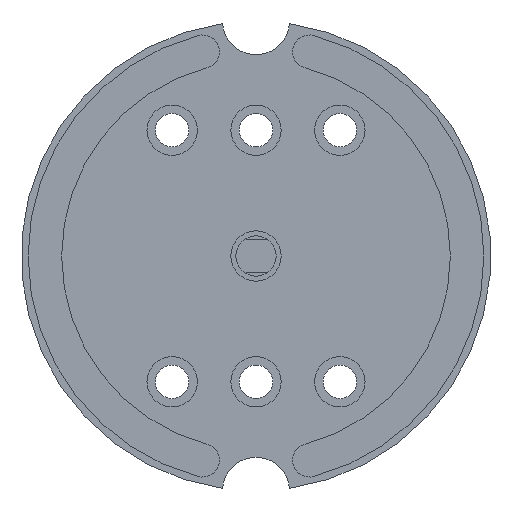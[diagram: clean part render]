
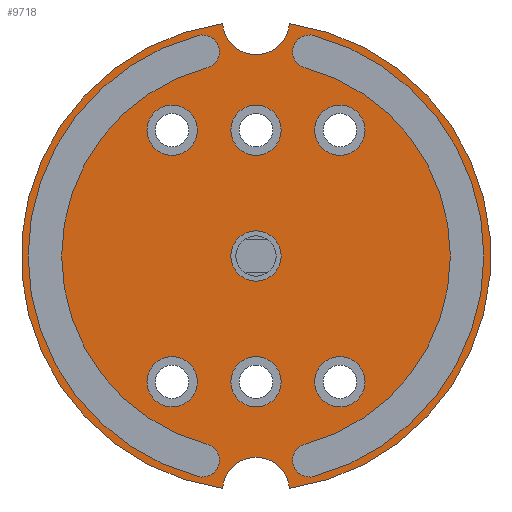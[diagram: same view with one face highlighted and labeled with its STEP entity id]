
A CAD part, front view. The second image highlights one B-rep face of the part: STEP entity #9718.
In plain terms, the highlighted planar face has unit normal (0, -1, 0).
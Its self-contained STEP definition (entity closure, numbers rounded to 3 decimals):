
#668=FACE_BOUND('',#1603,.T.);
#669=FACE_BOUND('',#1604,.T.);
#670=FACE_BOUND('',#1605,.T.);
#671=FACE_BOUND('',#1606,.T.);
#672=FACE_BOUND('',#1607,.T.);
#673=FACE_BOUND('',#1608,.T.);
#674=FACE_BOUND('',#1609,.T.);
#729=PLANE('',#10593);
#1017=FACE_OUTER_BOUND('',#1602,.T.);
#1602=EDGE_LOOP('',(#6405,#6406,#6407,#6408));
#1603=EDGE_LOOP('',(#6409));
#1604=EDGE_LOOP('',(#6410));
#1605=EDGE_LOOP('',(#6411));
#1606=EDGE_LOOP('',(#6412));
#1607=EDGE_LOOP('',(#6413));
#1608=EDGE_LOOP('',(#6414));
#1609=EDGE_LOOP('',(#6415));
#3893=CIRCLE('',#10573,0.6);
#3895=CIRCLE('',#10576,0.5);
#3897=CIRCLE('',#10579,0.5);
#3899=CIRCLE('',#10582,0.5);
#3901=CIRCLE('',#10585,0.5);
#3903=CIRCLE('',#10588,0.5);
#3905=CIRCLE('',#10591,0.5);
#3907=CIRCLE('',#10594,7.);
#3908=CIRCLE('',#10595,1.);
#3909=CIRCLE('',#10596,7.);
#3910=CIRCLE('',#10597,1.);
#4083=VERTEX_POINT('',#13310);
#4085=VERTEX_POINT('',#13316);
#4087=VERTEX_POINT('',#13322);
#4089=VERTEX_POINT('',#13328);
#4091=VERTEX_POINT('',#13334);
#4093=VERTEX_POINT('',#13340);
#4095=VERTEX_POINT('',#13346);
#4097=VERTEX_POINT('',#13352);
#4098=VERTEX_POINT('',#13353);
#4099=VERTEX_POINT('',#13355);
#4100=VERTEX_POINT('',#13357);
#4983=EDGE_CURVE('',#4083,#4083,#3893,.T.);
#4986=EDGE_CURVE('',#4085,#4085,#3895,.T.);
#4989=EDGE_CURVE('',#4087,#4087,#3897,.T.);
#4992=EDGE_CURVE('',#4089,#4089,#3899,.T.);
#4995=EDGE_CURVE('',#4091,#4091,#3901,.T.);
#4998=EDGE_CURVE('',#4093,#4093,#3903,.T.);
#5001=EDGE_CURVE('',#4095,#4095,#3905,.T.);
#5004=EDGE_CURVE('',#4097,#4098,#3907,.T.);
#5005=EDGE_CURVE('',#4098,#4099,#3908,.T.);
#5006=EDGE_CURVE('',#4099,#4100,#3909,.T.);
#5007=EDGE_CURVE('',#4100,#4097,#3910,.T.);
#6405=ORIENTED_EDGE('',*,*,#5004,.T.);
#6406=ORIENTED_EDGE('',*,*,#5005,.T.);
#6407=ORIENTED_EDGE('',*,*,#5006,.T.);
#6408=ORIENTED_EDGE('',*,*,#5007,.T.);
#6409=ORIENTED_EDGE('',*,*,#4983,.T.);
#6410=ORIENTED_EDGE('',*,*,#4986,.T.);
#6411=ORIENTED_EDGE('',*,*,#4989,.T.);
#6412=ORIENTED_EDGE('',*,*,#4992,.T.);
#6413=ORIENTED_EDGE('',*,*,#4995,.T.);
#6414=ORIENTED_EDGE('',*,*,#4998,.T.);
#6415=ORIENTED_EDGE('',*,*,#5001,.T.);
#9718=ADVANCED_FACE('',(#1017,#668,#669,#670,#671,#672,#673,#674),#729,
 .T.);
#10573=AXIS2_PLACEMENT_3D('',#13311,#11213,#11214);
#10576=AXIS2_PLACEMENT_3D('',#13317,#11220,#11221);
#10579=AXIS2_PLACEMENT_3D('',#13323,#11227,#11228);
#10582=AXIS2_PLACEMENT_3D('',#13329,#11234,#11235);
#10585=AXIS2_PLACEMENT_3D('',#13335,#11241,#11242);
#10588=AXIS2_PLACEMENT_3D('',#13341,#11248,#11249);
#10591=AXIS2_PLACEMENT_3D('',#13347,#11255,#11256);
#10593=AXIS2_PLACEMENT_3D('',#13351,#11260,#11261);
#10594=AXIS2_PLACEMENT_3D('',#13354,#11262,#11263);
#10595=AXIS2_PLACEMENT_3D('',#13356,#11264,#11265);
#10596=AXIS2_PLACEMENT_3D('',#13358,#11266,#11267);
#10597=AXIS2_PLACEMENT_3D('',#13359,#11268,#11269);
#11213=DIRECTION('center_axis',(0.,1.,0.));
#11214=DIRECTION('ref_axis',(-1.,0.,0.));
#11220=DIRECTION('center_axis',(0.,1.,0.));
#11221=DIRECTION('ref_axis',(1.,0.,0.));
#11227=DIRECTION('center_axis',(0.,1.,0.));
#11228=DIRECTION('ref_axis',(1.,0.,0.));
#11234=DIRECTION('center_axis',(0.,1.,0.));
#11235=DIRECTION('ref_axis',(1.,0.,0.));
#11241=DIRECTION('center_axis',(0.,1.,0.));
#11242=DIRECTION('ref_axis',(1.,0.,0.));
#11248=DIRECTION('center_axis',(0.,1.,0.));
#11249=DIRECTION('ref_axis',(1.,0.,0.));
#11255=DIRECTION('center_axis',(0.,1.,0.));
#11256=DIRECTION('ref_axis',(1.,0.,0.));
#11260=DIRECTION('center_axis',(0.,-1.,0.));
#11261=DIRECTION('ref_axis',(0.,0.,-1.));
#11262=DIRECTION('center_axis',(0.,-1.,0.));
#11263=DIRECTION('ref_axis',(-0.142,0.,-0.99));
#11264=DIRECTION('center_axis',(0.,1.,0.));
#11265=DIRECTION('ref_axis',(0.997,0.,-0.071));
#11266=DIRECTION('center_axis',(0.,-1.,0.));
#11267=DIRECTION('ref_axis',(0.142,0.,0.99));
#11268=DIRECTION('center_axis',(0.,1.,0.));
#11269=DIRECTION('ref_axis',(-0.997,0.,0.071));
#13310=CARTESIAN_POINT('',(0.6,-0.7,0.));
#13311=CARTESIAN_POINT('Origin',(0.,-0.7,0.));
#13316=CARTESIAN_POINT('',(2.,-0.7,3.75));
#13317=CARTESIAN_POINT('Origin',(2.5,-0.7,3.75));
#13322=CARTESIAN_POINT('',(-0.5,-0.7,3.75));
#13323=CARTESIAN_POINT('Origin',(0.,-0.7,3.75));
#13328=CARTESIAN_POINT('',(-3.,-0.7,3.75));
#13329=CARTESIAN_POINT('Origin',(-2.5,-0.7,3.75));
#13334=CARTESIAN_POINT('',(2.,-0.7,-3.75));
#13335=CARTESIAN_POINT('Origin',(2.5,-0.7,-3.75));
#13340=CARTESIAN_POINT('',(-0.5,-0.7,-3.75));
#13341=CARTESIAN_POINT('Origin',(0.,-0.7,-3.75));
#13346=CARTESIAN_POINT('',(-3.,-0.7,-3.75));
#13347=CARTESIAN_POINT('Origin',(-2.5,-0.7,-3.75));
#13351=CARTESIAN_POINT('Origin',(0.,-0.7,0.));
#13352=CARTESIAN_POINT('',(-0.997,-0.7,6.929));
#13353=CARTESIAN_POINT('',(-0.997,-0.7,-6.929));
#13354=CARTESIAN_POINT('Origin',(0.,-0.7,0.));
#13355=CARTESIAN_POINT('',(0.997,-0.7,-6.929));
#13356=CARTESIAN_POINT('Origin',(0.,-0.7,-7.));
#13357=CARTESIAN_POINT('',(0.997,-0.7,6.929));
#13358=CARTESIAN_POINT('Origin',(0.,-0.7,0.));
#13359=CARTESIAN_POINT('Origin',(0.,-0.7,7.));
